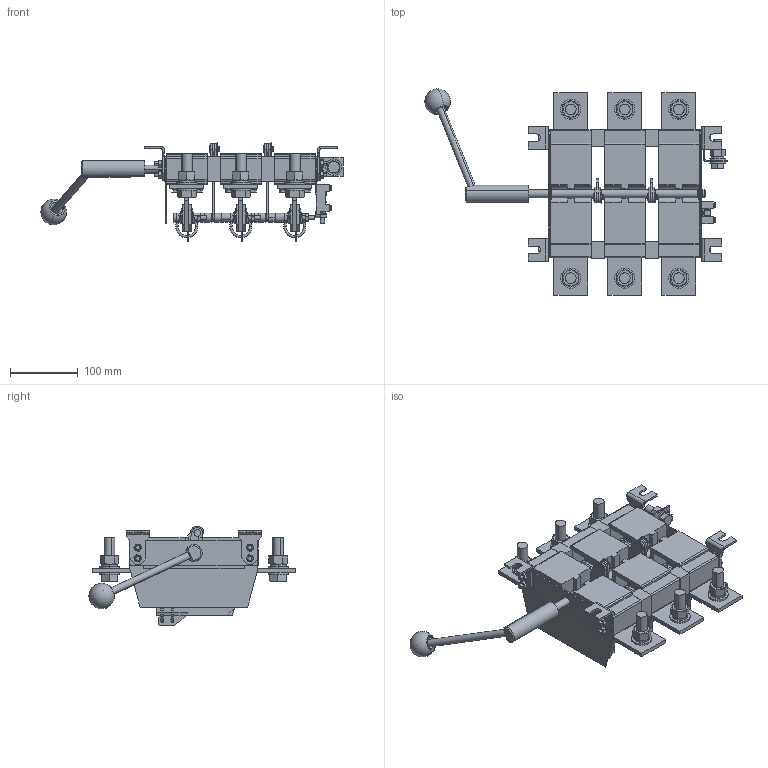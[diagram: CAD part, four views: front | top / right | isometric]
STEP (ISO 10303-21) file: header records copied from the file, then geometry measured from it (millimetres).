
FILE_DESCRIPTION (( 'STEP AP214' ), '1' );
FILE_NAME ('Ðàçúåäèíèòåëü ÐÅ19-41-31150-1000À-ÓÕË3-ÊÝÀÇ.STEP', '2023-08-21T11:36:55', ( '' ), ( '' ), 'SwSTEP 2.0', 'SolidWorks 2018', '' );
FILE_SCHEMA (( 'AUTOMOTIVE_DESIGN' ));
Length unit declared in the file: millimetre
Products named in the file (1): Ðàçúåäèíèòåëü ÐÅ19-41-31150-1000À-ÓÕË3-ÊÝÀÇ
Bounding box: 447.7 x 305.46 x 147.04 mm (x, y, z)
Surface area: 614208.6 mm2 (no closed solid volume)
Topology: 0 solids, 240 shells, 1714 faces, 5949 edges, 4439 vertices
Faces by surface type: plane 1015, cylinder 463, cone 153, torus 67, sphere 16
Entity records: 86205 total; most frequent: CARTESIAN_POINT 16458, DIRECTION 10642, ORIENTED_EDGE 9192, EDGE_CURVE 5934, VERTEX_POINT 4436, AXIS2_PLACEMENT_3D 3758, VECTOR 3126, LINE 3126
